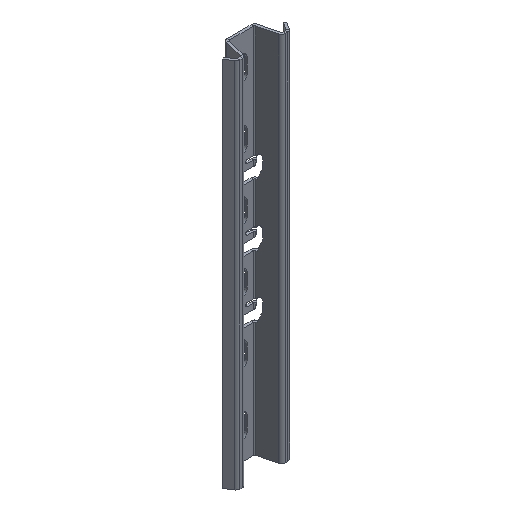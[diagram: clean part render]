
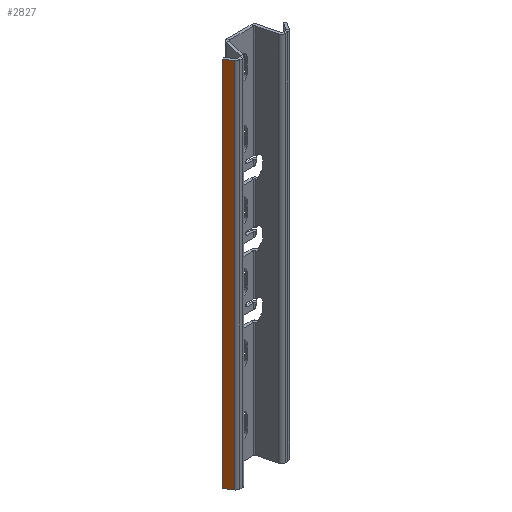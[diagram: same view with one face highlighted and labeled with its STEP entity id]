
A CAD part, isometric view. The second image highlights one B-rep face of the part: STEP entity #2827.
In plain terms, the highlighted planar face has unit normal (-0.832, -0.555, 0).
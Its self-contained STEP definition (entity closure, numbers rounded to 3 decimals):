
#27 = ORIENTED_EDGE ( 'NONE', *, *, #1832, .T. ) ;
#102 = VERTEX_POINT ( 'NONE', #3023 ) ;
#276 = CARTESIAN_POINT ( 'NONE',  ( -26., -12.606, 300. ) ) ;
#422 = EDGE_LOOP ( 'NONE', ( #3355, #2684, #27, #572 ) ) ;
#572 = ORIENTED_EDGE ( 'NONE', *, *, #1211, .T. ) ;
#798 = LINE ( 'NONE', #3315, #4252 ) ;
#1019 = CARTESIAN_POINT ( 'NONE',  ( -26., -12.606, 300. ) ) ;
#1041 = DIRECTION ( 'NONE',  ( -0.555, 0.832, 0. ) ) ;
#1211 = EDGE_CURVE ( 'NONE', #5520, #4955, #4433, .T. ) ;
#1398 = CARTESIAN_POINT ( 'NONE',  ( -26., -12.606, 0. ) ) ;
#1451 = DIRECTION ( 'NONE',  ( -0.555, 0.832, 0. ) ) ;
#1503 = CARTESIAN_POINT ( 'NONE',  ( -26., -12.606, 0. ) ) ;
#1580 = LINE ( 'NONE', #1503, #2512 ) ;
#1832 = EDGE_CURVE ( 'NONE', #2026, #5520, #2527, .T. ) ;
#2026 = VERTEX_POINT ( 'NONE', #3769 ) ;
#2249 = DIRECTION ( 'NONE',  ( 0., 0., -1. ) ) ;
#2512 = VECTOR ( 'NONE', #1041, 1000. ) ;
#2527 = LINE ( 'NONE', #1019, #2645 ) ;
#2645 = VECTOR ( 'NONE', #1451, 1000. ) ;
#2684 = ORIENTED_EDGE ( 'NONE', *, *, #3645, .F. ) ;
#2754 = CARTESIAN_POINT ( 'NONE',  ( -26., -12.606, 300. ) ) ;
#2827 = ADVANCED_FACE ( 'NONE', ( #4310 ), #4773, .T. ) ;
#3023 = CARTESIAN_POINT ( 'NONE',  ( -21.961, -18.664, 0. ) ) ;
#3315 = CARTESIAN_POINT ( 'NONE',  ( -21.961, -18.664, 300. ) ) ;
#3355 = ORIENTED_EDGE ( 'NONE', *, *, #5986, .F. ) ;
#3493 = CARTESIAN_POINT ( 'NONE',  ( -26., -12.606, 300. ) ) ;
#3645 = EDGE_CURVE ( 'NONE', #2026, #102, #798, .T. ) ;
#3769 = CARTESIAN_POINT ( 'NONE',  ( -21.961, -18.664, 300. ) ) ;
#4008 = DIRECTION ( 'NONE',  ( 0., 0., -1. ) ) ;
#4252 = VECTOR ( 'NONE', #2249, 1000. ) ;
#4310 = FACE_OUTER_BOUND ( 'NONE', #422, .T. ) ;
#4433 = LINE ( 'NONE', #3493, #4789 ) ;
#4773 = PLANE ( 'NONE',  #5518 ) ;
#4789 = VECTOR ( 'NONE', #4008, 1000. ) ;
#4955 = VERTEX_POINT ( 'NONE', #1398 ) ;
#5518 = AXIS2_PLACEMENT_3D ( 'NONE', #276, #5892, #6317 ) ;
#5520 = VERTEX_POINT ( 'NONE', #2754 ) ;
#5892 = DIRECTION ( 'NONE',  ( -0.832, -0.555, 0. ) ) ;
#5986 = EDGE_CURVE ( 'NONE', #102, #4955, #1580, .T. ) ;
#6317 = DIRECTION ( 'NONE',  ( 0.555, -0.832, 0. ) ) ;
